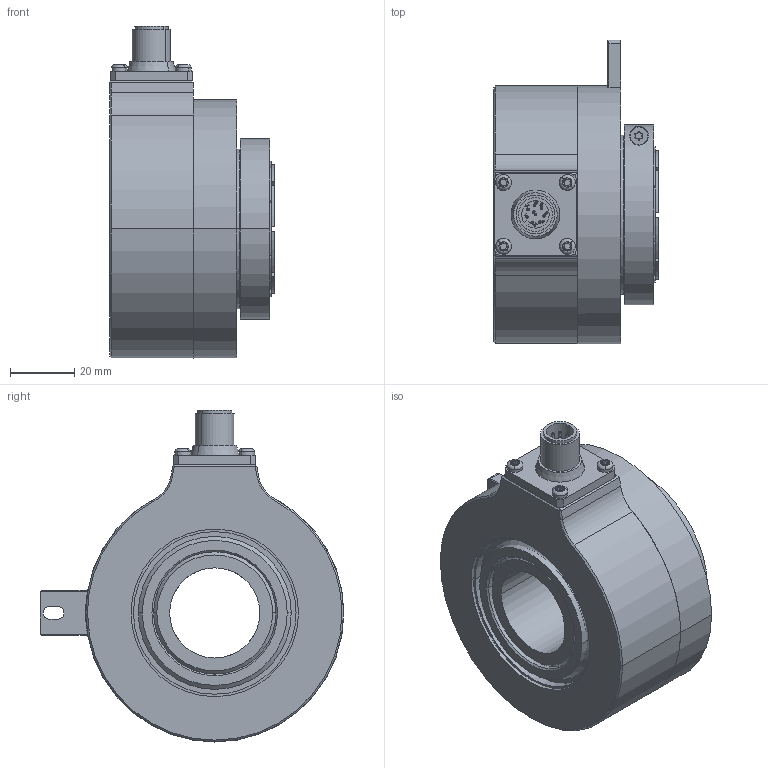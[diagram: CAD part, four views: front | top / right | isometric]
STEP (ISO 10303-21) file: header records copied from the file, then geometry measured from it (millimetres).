
FILE_DESCRIPTION (( 'STEP AP203' ), '1' );
FILE_NAME ('K80I.OXX.XXXXX.XH21828.6XRC5.step', '2025-12-09T10:04:42', ( '' ), ( '' ), 'SwSTEP 2.0', 'SolidWorks 2021', '' );
FILE_SCHEMA (( 'CONFIG_CONTROL_DESIGN' ));
Length unit declared in the file: millimetre
Products named in the file (1): K80I.OXX.XXXXX.XH21828.6XRC5
Bounding box: 51.2 x 94.28 x 103.08 mm (x, y, z)
Volume: 199496.4 mm3; surface area: 70731.4 mm2
Topology: 8 solids, 8 shells, 606 faces, 1610 edges, 1043 vertices
Faces by surface type: plane 241, cylinder 227, bspline 70, cone 42, sphere 16, torus 10
Entity records: 23201 total; most frequent: CARTESIAN_POINT 8376, ORIENTED_EDGE 3140, DIRECTION 2986, EDGE_CURVE 1570, AXIS2_PLACEMENT_3D 1085, VERTEX_POINT 1027, LINE 816, VECTOR 816
